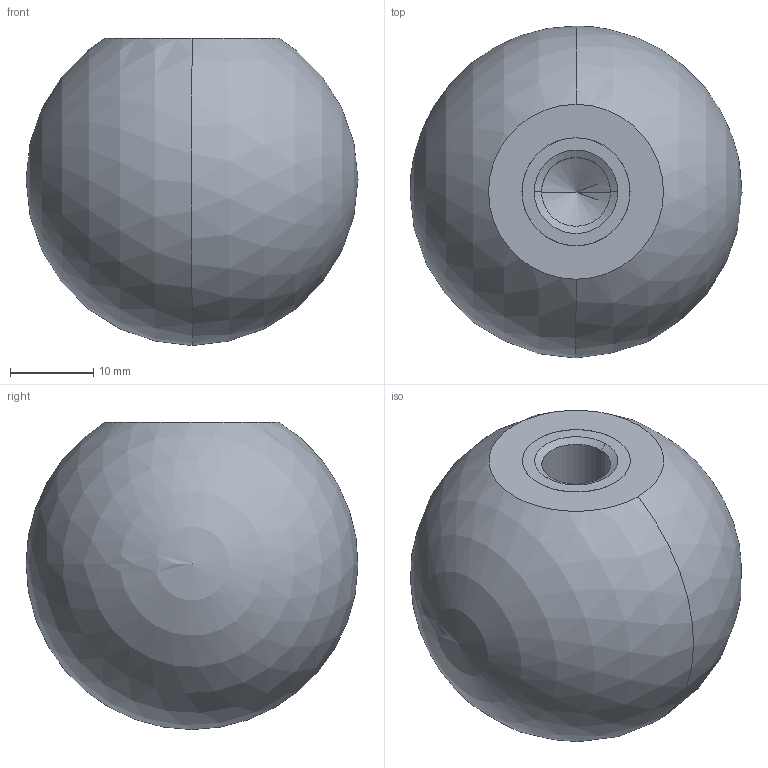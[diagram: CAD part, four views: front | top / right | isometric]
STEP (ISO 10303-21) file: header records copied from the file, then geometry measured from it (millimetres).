
FILE_DESCRIPTION (( 'STEP AP214' ), '1' );
FILE_NAME ('319-KT-40-M10-E.step', '2023-12-18T11:09:46', ( '' ), ( '' ), 'SwSTEP 2.0', 'SolidWorks 2022', '' );
FILE_SCHEMA (( 'AUTOMOTIVE_DESIGN' ));
Length unit declared in the file: millimetre
Products named in the file (1): 319-KT-40-M10-E
Bounding box: 40 x 40 x 37 mm (x, y, z)
Volume: 31948.1 mm3; surface area: 5468.2 mm2
Topology: 1 solids, 1 shells, 15 faces, 35 edges, 21 vertices
Faces by surface type: cylinder 6, cone 4, plane 3, sphere 2
Entity records: 517 total; most frequent: DIRECTION 78, CARTESIAN_POINT 62, ORIENTED_EDGE 56, AXIS2_PLACEMENT_3D 34, EDGE_CURVE 28, CIRCLE 18, VERTEX_POINT 18, EDGE_LOOP 18
